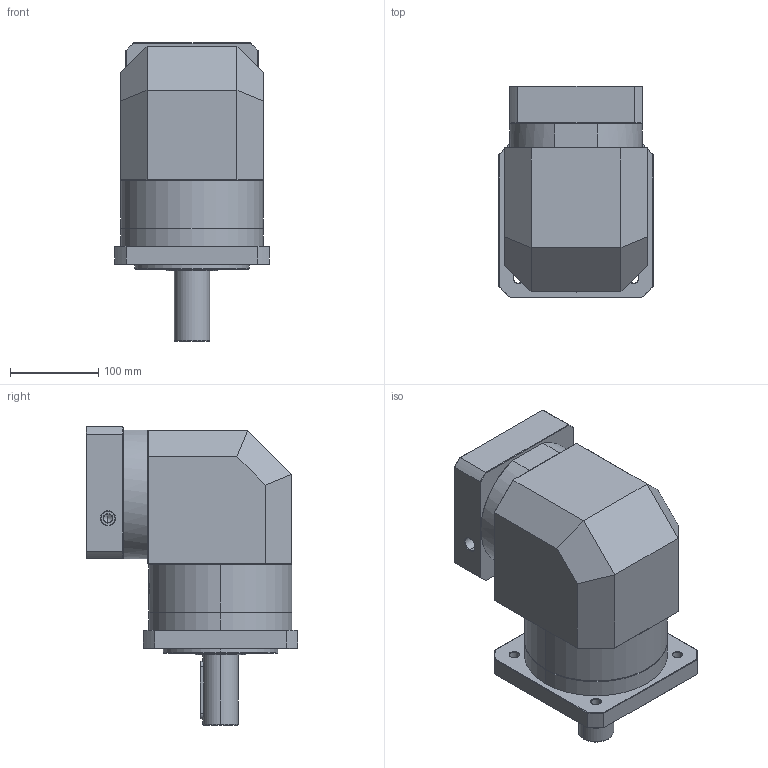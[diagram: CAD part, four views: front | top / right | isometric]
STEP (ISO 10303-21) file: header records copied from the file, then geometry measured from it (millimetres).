
FILE_DESCRIPTION (( 'STEP AP214' ), '1' );
FILE_NAME ('ZFR160A-D40-L1-P2-28-110-145-M8.step', '2023-09-03T08:56:34', ( '' ), ( '' ), 'SwSTEP 2.0', 'SolidWorks 2016', '' );
FILE_SCHEMA (( 'AUTOMOTIVE_DESIGN' ));
Length unit declared in the file: millimetre
Products named in the file (1): ZFR160A-D40-L1-P2-28-110-145-M8
Bounding box: 175 x 239.5 x 338.7 mm (x, y, z)
Volume: 6590459.9 mm3; surface area: 431188.6 mm2
Topology: 6 solids, 6 shells, 2233 faces, 5901 edges, 3775 vertices
Faces by surface type: plane 1048, cylinder 441, bspline 414, cone 308, torus 22
Entity records: 127750 total; most frequent: CARTESIAN_POINT 53477, ORIENTED_EDGE 11742, DIRECTION 8456, EDGE_CURVE 5871, VERTEX_POINT 3775, LINE 3118, VECTOR 3118, AXIS2_PLACEMENT_3D 2669
